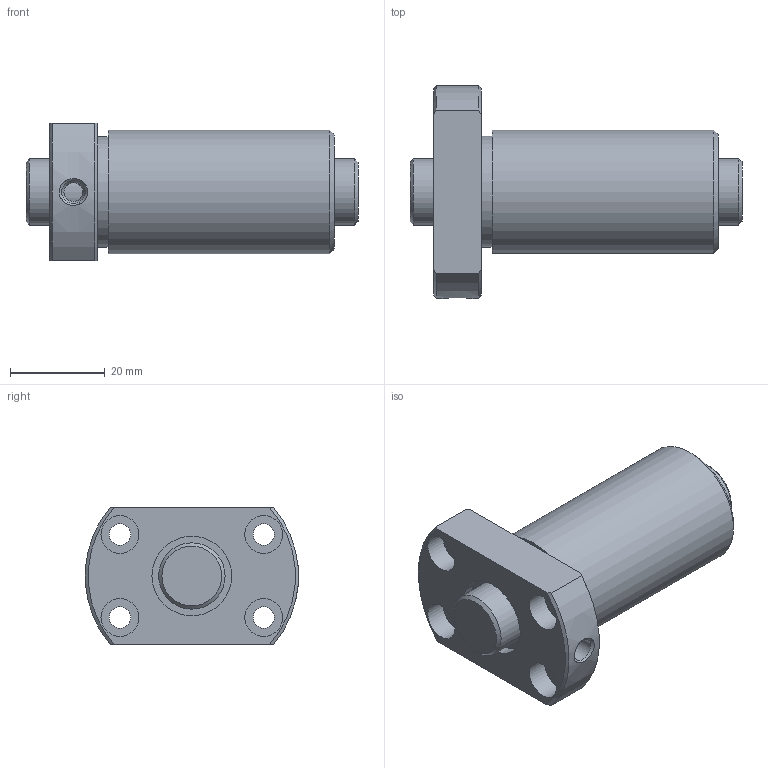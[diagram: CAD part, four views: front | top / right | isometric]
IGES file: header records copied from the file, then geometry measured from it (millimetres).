
Start section: Data from Parasolid IGES Translator 26.0.171, Copyright(c) 2006 Siemens PLM Software. All Rights Reserved.
Global section: file name: DK1404-6RRG1+70LC0_000.igs; native system: By Siemens PLM Incorporated; preprocessor: XPlus GENERIC/IGES 26.0.171; author: Noname; organization: Noname; date: 20250113.090721; units: millimetre
Bounding box: 70 x 44.93 x 29 mm (x, y, z)
Surface area: 14445.3 mm2 (no closed solid volume)
Topology: 0 solids, 0 shells, 41 faces, 174 edges, 143 vertices
Faces by surface type: revolution 27, extrusion 14
